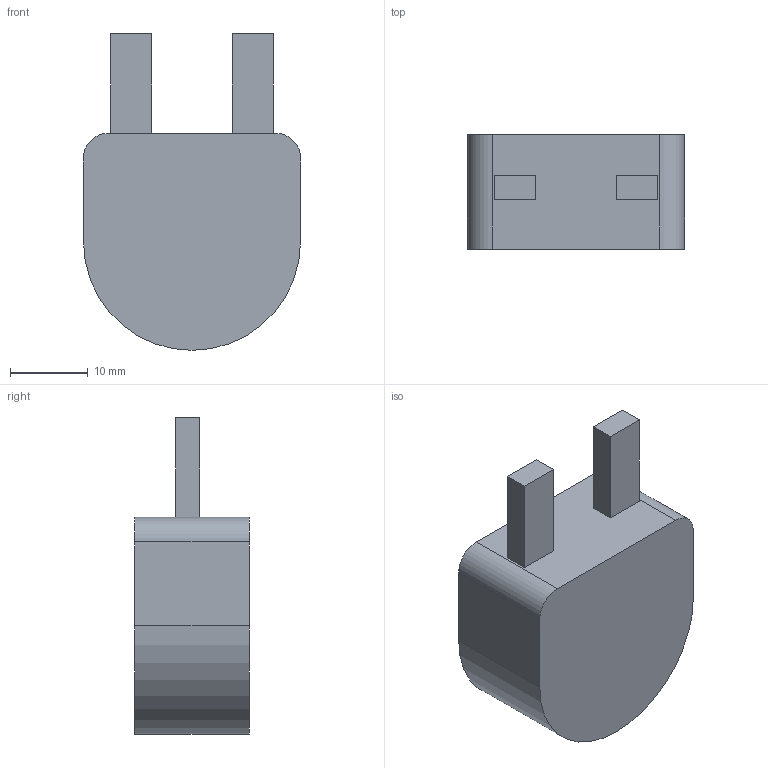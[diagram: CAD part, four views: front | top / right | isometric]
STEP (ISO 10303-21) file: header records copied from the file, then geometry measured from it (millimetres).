
FILE_DESCRIPTION (( 'STEP AP214' ), '1' );
FILE_NAME ('IHXL1100OZEB1R0K3A.STEP', '2025-08-07T20:38:37', ( '' ), ( '' ), 'SwSTEP 2.0', 'SolidWorks 2024', '' );
FILE_SCHEMA (( 'AUTOMOTIVE_DESIGN' ));
Length unit declared in the file: inch
Products named in the file (1): IHXL1100OZEB1R0K3A
Bounding box: 27.94 x 14.76 x 40.77 mm (x, y, z)
Volume: 10640.3 mm3; surface area: 3247.3 mm2
Topology: 1 solids, 1 shells, 19 faces, 45 edges, 30 vertices
Faces by surface type: plane 15, cylinder 4
Entity records: 574 total; most frequent: CARTESIAN_POINT 95, DIRECTION 93, ORIENTED_EDGE 90, EDGE_CURVE 45, LINE 37, VECTOR 37, VERTEX_POINT 30, AXIS2_PLACEMENT_3D 28
